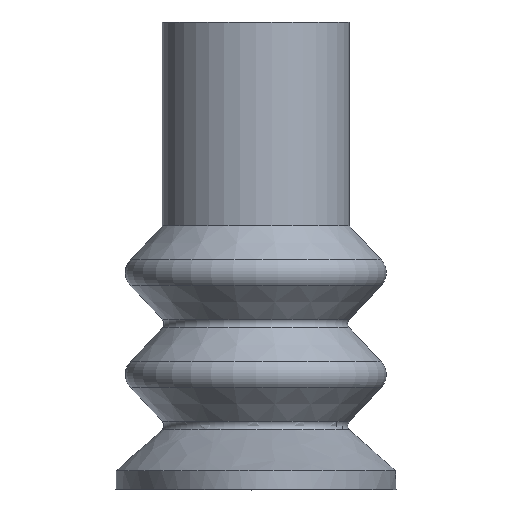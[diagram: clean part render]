
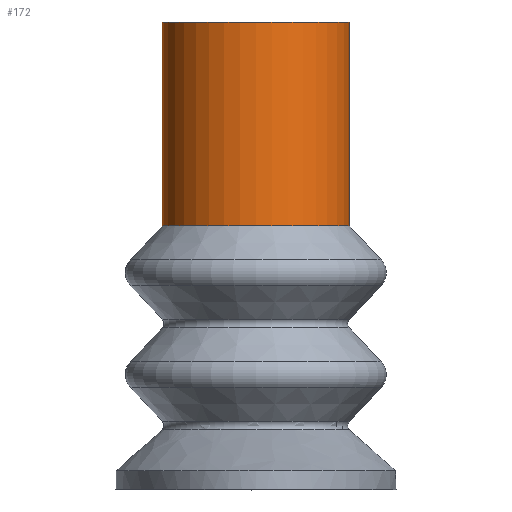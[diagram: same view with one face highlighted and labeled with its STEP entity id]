
A CAD part, top view. The second image highlights one B-rep face of the part: STEP entity #172.
In plain terms, the highlighted cylindrical face has radius 5 mm (diameter 10 mm), a full revolution.
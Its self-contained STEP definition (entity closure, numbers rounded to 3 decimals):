
#40 = FACE_OUTER_BOUND ( 'NONE', #384, .T. ) ;
#108 = CARTESIAN_POINT ( 'NONE',  ( 0., 13.4, 0. ) ) ;
#122 = DIRECTION ( 'NONE',  ( 0., -1., 0. ) ) ;
#172 = ADVANCED_FACE ( 'NONE', ( #709, #40 ), #767, .T. ) ;
#232 = CIRCLE ( 'NONE', #416, 5. ) ;
#291 = ORIENTED_EDGE ( 'NONE', *, *, #440, .T. ) ;
#315 = DIRECTION ( 'NONE',  ( 1., 0., 0. ) ) ;
#335 = ORIENTED_EDGE ( 'NONE', *, *, #784, .F. ) ;
#357 = DIRECTION ( 'NONE',  ( 1., 0., 0. ) ) ;
#371 = EDGE_LOOP ( 'NONE', ( #335 ) ) ;
#384 = EDGE_LOOP ( 'NONE', ( #291 ) ) ;
#393 = CIRCLE ( 'NONE', #779, 5. ) ;
#414 = CARTESIAN_POINT ( 'NONE',  ( 0., 2.5, 0. ) ) ;
#416 = AXIS2_PLACEMENT_3D ( 'NONE', #414, #747, #612 ) ;
#440 = EDGE_CURVE ( 'NONE', #624, #624, #393, .T. ) ;
#519 = VERTEX_POINT ( 'NONE', #781 ) ;
#557 = DIRECTION ( 'NONE',  ( 0., -1., 0. ) ) ;
#574 = CARTESIAN_POINT ( 'NONE',  ( 0., 7.95, 0. ) ) ;
#612 = DIRECTION ( 'NONE',  ( 1., 0., 0. ) ) ;
#624 = VERTEX_POINT ( 'NONE', #773 ) ;
#709 = FACE_OUTER_BOUND ( 'NONE', #371, .T. ) ;
#747 = DIRECTION ( 'NONE',  ( 0., -1., 0. ) ) ;
#762 = AXIS2_PLACEMENT_3D ( 'NONE', #574, #122, #315 ) ;
#767 = CYLINDRICAL_SURFACE ( 'NONE', #762, 5. ) ;
#773 = CARTESIAN_POINT ( 'NONE',  ( 5., 13.4, 0. ) ) ;
#779 = AXIS2_PLACEMENT_3D ( 'NONE', #108, #557, #357 ) ;
#781 = CARTESIAN_POINT ( 'NONE',  ( 5., 2.5, 0. ) ) ;
#784 = EDGE_CURVE ( 'NONE', #519, #519, #232, .T. ) ;
